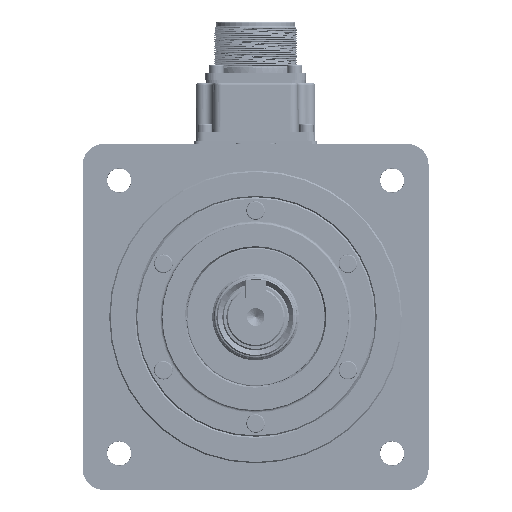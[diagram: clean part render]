
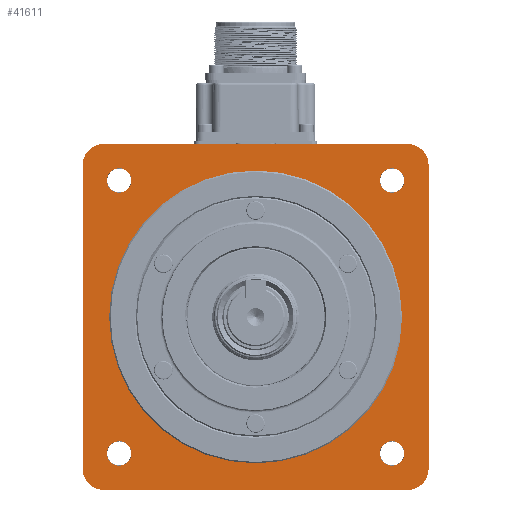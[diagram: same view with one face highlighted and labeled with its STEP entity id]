
A CAD part, front view. The second image highlights one B-rep face of the part: STEP entity #41611.
In plain terms, the highlighted planar face has unit normal (0, -1, 0).
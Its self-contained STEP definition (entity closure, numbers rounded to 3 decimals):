
#1085=LINE('',#59608,#4260);
#1156=LINE('',#62504,#4331);
#1161=LINE('',#62514,#4336);
#1166=LINE('',#62524,#4341);
#4260=VECTOR('',#48185,1000.);
#4331=VECTOR('',#48890,1000.);
#4336=VECTOR('',#48901,1000.);
#4341=VECTOR('',#48912,1000.);
#9006=PLANE('',#44581);
#10962=ORIENTED_EDGE('',*,*,#22029,.F.);
#10963=ORIENTED_EDGE('',*,*,#21995,.F.);
#10964=ORIENTED_EDGE('',*,*,#21992,.T.);
#10965=ORIENTED_EDGE('',*,*,#22001,.F.);
#10966=ORIENTED_EDGE('',*,*,#21998,.T.);
#10967=ORIENTED_EDGE('',*,*,#22007,.F.);
#10968=ORIENTED_EDGE('',*,*,#22004,.T.);
#10969=ORIENTED_EDGE('',*,*,#22008,.F.);
#10970=ORIENTED_EDGE('',*,*,#21640,.T.);
#10971=ORIENTED_EDGE('',*,*,#21949,.F.);
#10972=ORIENTED_EDGE('',*,*,#21962,.F.);
#10973=ORIENTED_EDGE('',*,*,#21972,.F.);
#10974=ORIENTED_EDGE('',*,*,#21940,.F.);
#21640=EDGE_CURVE('',#27339,#27338,#1085,.T.);
#21940=EDGE_CURVE('',#27544,#27544,#31505,.F.);
#21949=EDGE_CURVE('',#27552,#27552,#31511,.F.);
#21962=EDGE_CURVE('',#27564,#27564,#31521,.F.);
#21972=EDGE_CURVE('',#27574,#27574,#31527,.F.);
#21992=EDGE_CURVE('',#27585,#27584,#1156,.T.);
#21995=EDGE_CURVE('',#27585,#27338,#31533,.F.);
#21998=EDGE_CURVE('',#27587,#27586,#1161,.T.);
#22001=EDGE_CURVE('',#27587,#27584,#31534,.F.);
#22004=EDGE_CURVE('',#27589,#27588,#1166,.T.);
#22007=EDGE_CURVE('',#27589,#27586,#31535,.F.);
#22008=EDGE_CURVE('',#27339,#27588,#31536,.F.);
#22029=EDGE_CURVE('',#27602,#27602,#31549,.T.);
#27338=VERTEX_POINT('',#59607);
#27339=VERTEX_POINT('',#59609);
#27544=VERTEX_POINT('',#62394);
#27552=VERTEX_POINT('',#62413);
#27564=VERTEX_POINT('',#62444);
#27574=VERTEX_POINT('',#62466);
#27584=VERTEX_POINT('',#62503);
#27585=VERTEX_POINT('',#62505);
#27586=VERTEX_POINT('',#62513);
#27587=VERTEX_POINT('',#62515);
#27588=VERTEX_POINT('',#62523);
#27589=VERTEX_POINT('',#62525);
#27602=VERTEX_POINT('',#62583);
#31505=CIRCLE('',#44494,4.6);
#31511=CIRCLE('',#44502,4.6);
#31521=CIRCLE('',#44518,4.6);
#31527=CIRCLE('',#44526,4.6);
#31533=CIRCLE('',#44541,8.);
#31534=CIRCLE('',#44544,8.);
#31535=CIRCLE('',#44547,8.);
#31536=CIRCLE('',#44549,8.);
#31549=CIRCLE('',#44580,55.);
#33008=EDGE_LOOP('',(#10962));
#33009=EDGE_LOOP('',(#10963,#10964,#10965,#10966,#10967,#10968,#10969,#10970));
#33010=EDGE_LOOP('',(#10971));
#33011=EDGE_LOOP('',(#10972));
#33012=EDGE_LOOP('',(#10973));
#33013=EDGE_LOOP('',(#10974));
#36508=FACE_BOUND('',#33008,.T.);
#36509=FACE_BOUND('',#33009,.T.);
#36510=FACE_BOUND('',#33010,.T.);
#36511=FACE_BOUND('',#33011,.T.);
#36512=FACE_BOUND('',#33012,.T.);
#36513=FACE_BOUND('',#33013,.T.);
#41611=ADVANCED_FACE('',(#36508,#36509,#36510,#36511,#36512,#36513),#9006,
 .F.);
#44494=AXIS2_PLACEMENT_3D('',#62393,#48774,#48775);
#44502=AXIS2_PLACEMENT_3D('',#62412,#48793,#48794);
#44518=AXIS2_PLACEMENT_3D('',#62443,#48828,#48829);
#44526=AXIS2_PLACEMENT_3D('',#62465,#48848,#48849);
#44541=AXIS2_PLACEMENT_3D('',#62509,#48895,#48896);
#44544=AXIS2_PLACEMENT_3D('',#62519,#48906,#48907);
#44547=AXIS2_PLACEMENT_3D('',#62529,#48917,#48918);
#44549=AXIS2_PLACEMENT_3D('',#62531,#48921,#48922);
#44580=AXIS2_PLACEMENT_3D('',#62582,#48991,#48992);
#44581=AXIS2_PLACEMENT_3D('',#62584,#48993,#48994);
#48185=DIRECTION('',(-1.,0.,0.));
#48774=DIRECTION('',(0.,1.,0.));
#48775=DIRECTION('',(0.,0.,1.));
#48793=DIRECTION('',(0.,1.,0.));
#48794=DIRECTION('',(0.,0.,1.));
#48828=DIRECTION('',(0.,1.,0.));
#48829=DIRECTION('',(0.,0.,1.));
#48848=DIRECTION('',(0.,1.,0.));
#48849=DIRECTION('',(0.,0.,1.));
#48890=DIRECTION('',(0.,0.,-1.));
#48895=DIRECTION('',(0.,-1.,0.));
#48896=DIRECTION('',(0.,0.,-1.));
#48901=DIRECTION('',(1.,0.,0.));
#48906=DIRECTION('',(0.,-1.,0.));
#48907=DIRECTION('',(0.,0.,-1.));
#48912=DIRECTION('',(0.,0.,1.));
#48917=DIRECTION('',(0.,-1.,0.));
#48918=DIRECTION('',(0.,0.,-1.));
#48921=DIRECTION('',(0.,-1.,0.));
#48922=DIRECTION('',(0.,0.,-1.));
#48991=DIRECTION('',(0.,-1.,0.));
#48992=DIRECTION('',(0.,0.,-1.));
#48993=DIRECTION('',(0.,1.,0.));
#48994=DIRECTION('',(0.,0.,1.));
#59607=CARTESIAN_POINT('',(-57.,1.2,65.));
#59608=CARTESIAN_POINT('',(65.,1.2,65.));
#59609=CARTESIAN_POINT('',(57.,1.2,65.));
#62393=CARTESIAN_POINT('',(51.265,1.2,51.265));
#62394=CARTESIAN_POINT('',(51.265,1.2,55.866));
#62412=CARTESIAN_POINT('',(-51.265,1.2,51.265));
#62413=CARTESIAN_POINT('',(-51.265,1.2,55.866));
#62443=CARTESIAN_POINT('',(-51.265,1.2,-51.265));
#62444=CARTESIAN_POINT('',(-51.265,1.2,-46.665));
#62465=CARTESIAN_POINT('',(51.265,1.2,-51.265));
#62466=CARTESIAN_POINT('',(51.265,1.2,-46.665));
#62503=CARTESIAN_POINT('',(-65.,1.2,-57.));
#62504=CARTESIAN_POINT('',(-65.,1.2,65.));
#62505=CARTESIAN_POINT('',(-65.,1.2,57.));
#62509=CARTESIAN_POINT('',(-57.,1.2,57.));
#62513=CARTESIAN_POINT('',(57.,1.2,-65.));
#62514=CARTESIAN_POINT('',(-65.,1.2,-65.));
#62515=CARTESIAN_POINT('',(-57.,1.2,-65.));
#62519=CARTESIAN_POINT('',(-57.,1.2,-57.));
#62523=CARTESIAN_POINT('',(65.,1.2,57.));
#62524=CARTESIAN_POINT('',(65.,1.2,-65.));
#62525=CARTESIAN_POINT('',(65.,1.2,-57.));
#62529=CARTESIAN_POINT('',(57.,1.2,-57.));
#62531=CARTESIAN_POINT('',(57.,1.2,57.));
#62582=CARTESIAN_POINT('',(0.,1.2,0.));
#62583=CARTESIAN_POINT('',(0.,1.2,-55.));
#62584=CARTESIAN_POINT('',(0.,1.2,55.));
